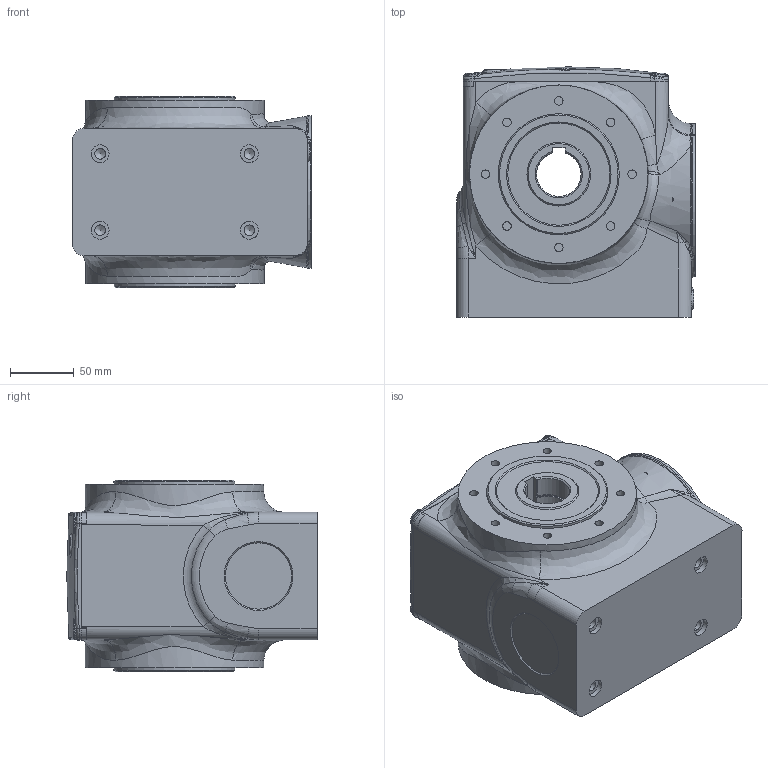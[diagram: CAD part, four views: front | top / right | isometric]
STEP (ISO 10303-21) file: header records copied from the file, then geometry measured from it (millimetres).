
FILE_DESCRIPTION(/* description */ (''),/* implementation_level */ '2;1');
FILE_NAME(/* name */ 'Z:\Dertec\RVS pakket tekeningen\Kasten\FSA + FS serie\FSA\FSA58\Step Customer\FSA58 HA35 #.stp',/* time_stamp */ '2017-12-08T12:13:26+01:00',/* author */ ('Dertec'),/* organization */ (''),/* preprocessor_version */ 'ST-DEVELOPER v16.1',/* originating_system */ 'Autodesk Inventor 2016',/* authorisation */ '');
FILE_SCHEMA (('AUTOMOTIVE_DESIGN { 1 0 10303 214 3 1 1 }'));
Length unit declared in the file: inch
Products named in the file (1): Part62
Bounding box: 187 x 196.41 x 150.01 mm (x, y, z)
Volume: 3609394.3 mm3; surface area: 270959.3 mm2
Topology: 1 solids, 6 shells, 496 faces, 1153 edges, 703 vertices
Faces by surface type: bspline 168, plane 130, cylinder 114, cone 42, torus 40, sphere 2
Full cylindrical faces by diameter (mm): 4.917 x4, 6.644 x1, 6.647 x22, 8.376 x4, 8.917 x1, 11 x4, 14 x4, 49.9 x2, 50 x2, 50.2 x1, 52 x1, 55 x1, 80 x4, 83.5 x2, 84 x1, 87 x1, 95 x2, 140 x2
Entity records: 29569 total; most frequent: CARTESIAN_POINT 19397, ORIENTED_EDGE 1980, DIRECTION 1741, EDGE_CURVE 990, AXIS2_PLACEMENT_3D 773, VERTEX_POINT 654, EDGE_LOOP 650, STYLED_ITEM 497
